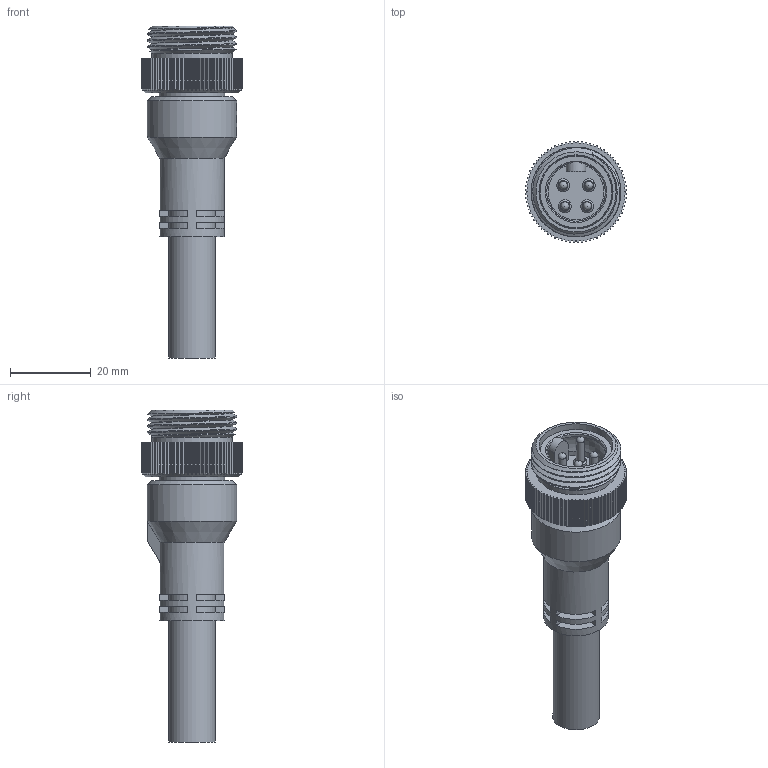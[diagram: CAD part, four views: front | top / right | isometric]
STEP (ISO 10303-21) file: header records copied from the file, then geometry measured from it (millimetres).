
FILE_DESCRIPTION (( 'STEP AP203' ), '1' );
FILE_NAME ('CM03A-J4P.STEP', '2022-04-07T06:32:04', ( '' ), ( '' ), 'SwSTEP 2.0', 'SolidWorks 2018', '' );
FILE_SCHEMA (( 'CONFIG_CONTROL_DESIGN' ));
Length unit declared in the file: millimetre
Products named in the file (1): CM03A-J4P
Bounding box: 24.98 x 24.98 x 82 mm (x, y, z)
Volume: 17589 mm3; surface area: 7668.1 mm2
Topology: 1 solids, 1 shells, 588 faces, 1697 edges, 1130 vertices
Faces by surface type: cylinder 352, plane 212, cone 12, bspline 6, sphere 4, torus 2
Full cylindrical faces by diameter (mm): 2.01 x4, 3.2 x4, 11.6 x1, 16 x1, 16.2 x1, 17.7 x2, 18.3 x1, 19.8 x1, 22 x1
Entity records: 21206 total; most frequent: CARTESIAN_POINT 6389, ORIENTED_EDGE 3270, DIRECTION 2855, EDGE_CURVE 1635, VERTEX_POINT 1104, AXIS2_PLACEMENT_3D 1067, VECTOR 721, LINE 721
